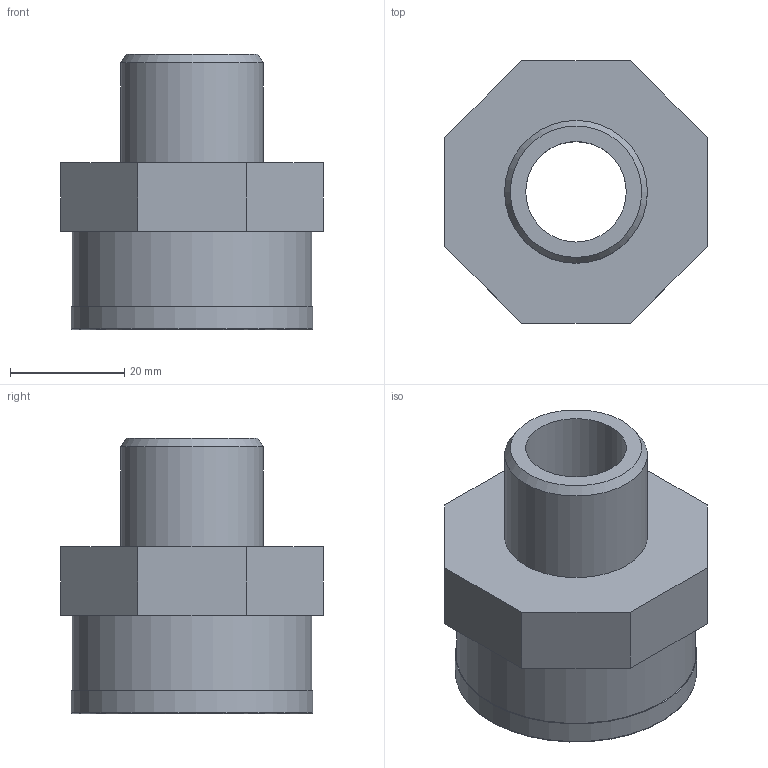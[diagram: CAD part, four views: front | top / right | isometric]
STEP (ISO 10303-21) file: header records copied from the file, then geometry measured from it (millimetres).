
FILE_DESCRIPTION(/* description */ (''),/* implementation_level */ '2;1');
FILE_NAME(/* name */ 'C:\Users\POLYPIPE\Desktop\DATASET INVENTOR\LIBRERIA EFFAST\RACCORDI 3DxWEB\RGR\3D_RGRAFR\3D_RGRAFR025D.stp',/* time_stamp */ '2018-01-19T17:30:33+01:00',/* author */ ('POLYPIPE'),/* organization */ (''),/* preprocessor_version */ 'ST-DEVELOPER v16.1',/* originating_system */ 'Autodesk Inventor 2016',/* authorisation */ '');
FILE_SCHEMA (('CONFIG_CONTROL_DESIGN'));
Length unit declared in the file: centimetre
Products named in the file (1): 3D_RGRAFR025D
Bounding box: 46 x 46 x 48.25 mm (x, y, z)
Volume: 30699.2 mm3; surface area: 13651.1 mm2
Topology: 1 solids, 1 shells, 32 faces, 68 edges, 44 vertices
Faces by surface type: plane 17, cylinder 8, bspline 5, cone 1, torus 1
Full cylindrical faces by diameter (mm): 17.6 x1, 23.291 x1, 25 x1, 37 x1, 42 x1, 42.3 x1
Entity records: 4232 total; most frequent: CARTESIAN_POINT 3522, DIRECTION 122, ORIENTED_EDGE 118, EDGE_CURVE 59, EDGE_LOOP 48, AXIS2_PLACEMENT_3D 47, VERTEX_POINT 43, STYLED_ITEM 33
